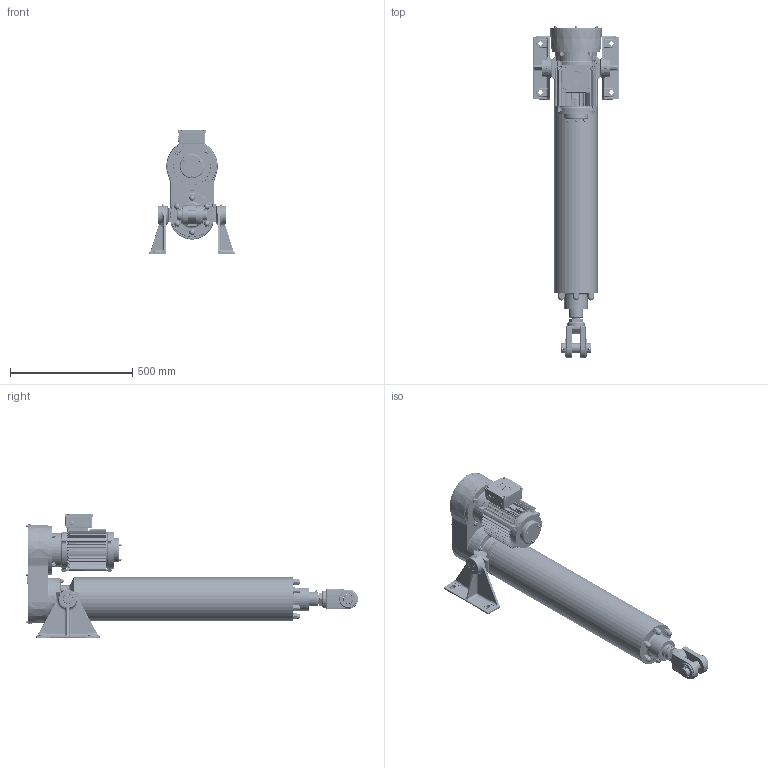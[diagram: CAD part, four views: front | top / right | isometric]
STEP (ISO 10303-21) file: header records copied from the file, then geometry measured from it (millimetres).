
FILE_DESCRIPTION( ( '153-599-4' ), '1' );
FILE_NAME( '//TOMOKO/Katalogbilder/RBs rendern/austausch pomplun/mit identnr/T1C7-0600-160-181-4.stp', 'Unknown', ( 'Christoph Hahmann' ), ( 'RACO-ELEKTRO-MASCHINEN GmbH' ), 'PSStep 17.0.49', 'Solid Edge ST 7', ' ' );
FILE_SCHEMA( ( 'AUTOMOTIVE_DESIGN { 1 0 10303 214 1 1 1 1 }' ) );
Length unit declared in the file: millimetre
Products named in the file (10): Assem1; 03.01-07 kpl; 02.14-07-0600; 01.15-07-0600; 02.01-07 kpl; 01.74-07; 01.01-07-gabelkkopf 133-277-52; BGR 6-7; 12. 1-5-7 Ø200; 03.65-07-2Füße
Assembly tree (9 placements, depth 2):
  Assem1
    03.01-07 kpl
    02.14-07-0600
    01.15-07-0600
    02.01-07 kpl
    01.74-07
    01.01-07-gabelkkopf 133-277-52
    BGR 6-7
    12. 1-5-7 Ø200
    03.65-07-2Füße
Bounding box: 350 x 1355.6 x 509 mm (x, y, z)
Surface area: 2505392.5 mm2 (no closed solid volume)
Topology: 0 solids, 6859 shells, 6859 faces, 35553 edges, 34612 vertices
Faces by surface type: plane 3334, cylinder 1475, bspline 596, cone 574, torus 447, sphere 270, extrusion 157, revolution 6
Full cylindrical faces by diameter (mm): 1.6 x2, 2 x1, 2.459 x12, 3 x4, 3.242 x16, 4 x3, 4.02 x4, 4.134 x23, 4.773 x6, 4.917 x7, 5 x12, 5.3 x3, 5.4 x4, 5.5 x8, 5.7 x3, 6 x14, 6.647 x9, 7 x11, 7.33 x1, 7.5 x3, 8 x7, 8.15 x1, 8.16 x4, 8.2 x1, 8.4 x2, 8.5 x4, 8.566 x1, 8.9 x4, 9 x4, 9.15 x3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
Entity records: 493058 total; most frequent: CARTESIAN_POINT 181535, DIRECTION 54813, VERTEX_POINT 34211, ORIENTED_EDGE 34144, EDGE_CURVE 34144, AXIS2_PLACEMENT_3D 19221, VECTOR 16365, LINE 16208
